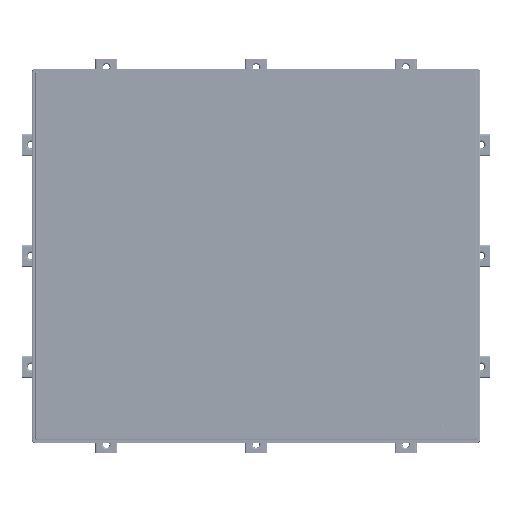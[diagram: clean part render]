
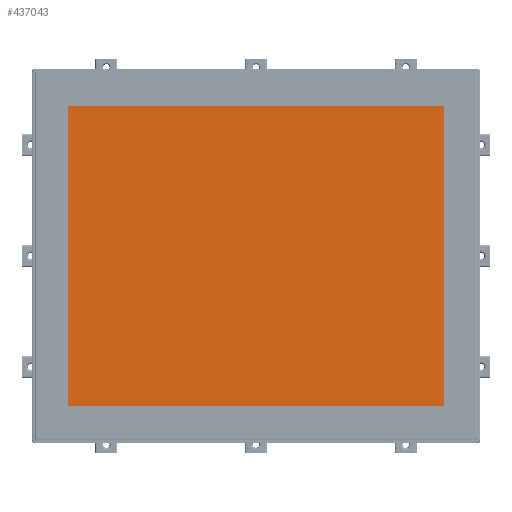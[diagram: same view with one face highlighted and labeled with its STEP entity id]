
A CAD part, top view. The second image highlights one B-rep face of the part: STEP entity #437043.
In plain terms, the highlighted planar face has unit normal (0, 0, 1).
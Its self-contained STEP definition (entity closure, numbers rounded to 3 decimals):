
#11564=DIRECTION('',(0.,1.,0.));
#11565=VECTOR('',#11564,271.);
#11566=CARTESIAN_POINT('',(169.25,-135.5,5.2));
#11567=LINE('',#11566,#11565);
#11568=DIRECTION('',(1.,0.,0.));
#11569=VECTOR('',#11568,46.75);
#11570=CARTESIAN_POINT('',(122.5,-135.5,5.2));
#11571=LINE('',#11570,#11569);
#11572=DIRECTION('',(0.,1.,0.));
#11573=VECTOR('',#11572,0.25);
#11574=CARTESIAN_POINT('',(122.5,-135.75,5.2));
#11575=LINE('',#11574,#11573);
#11576=DIRECTION('',(0.,1.,0.));
#11577=VECTOR('',#11576,0.25);
#11578=CARTESIAN_POINT('',(117.5,-135.75,5.2));
#11579=LINE('',#11578,#11577);
#11580=DIRECTION('',(1.,0.,0.));
#11581=VECTOR('',#11580,235.);
#11582=CARTESIAN_POINT('',(-117.5,-135.5,5.2));
#11583=LINE('',#11582,#11581);
#11584=DIRECTION('',(0.,1.,0.));
#11585=VECTOR('',#11584,0.25);
#11586=CARTESIAN_POINT('',(-117.5,-135.75,5.2));
#11587=LINE('',#11586,#11585);
#11588=DIRECTION('',(0.,1.,0.));
#11589=VECTOR('',#11588,0.25);
#11590=CARTESIAN_POINT('',(-122.5,-135.75,5.2));
#11591=LINE('',#11590,#11589);
#11592=DIRECTION('',(1.,0.,0.));
#11593=VECTOR('',#11592,46.75);
#11594=CARTESIAN_POINT('',(-169.25,-135.5,5.2));
#11595=LINE('',#11594,#11593);
#11596=DIRECTION('',(0.,-1.,0.));
#11597=VECTOR('',#11596,271.);
#11598=CARTESIAN_POINT('',(-169.25,135.5,5.2));
#11599=LINE('',#11598,#11597);
#11600=DIRECTION('',(-1.,0.,0.));
#11601=VECTOR('',#11600,338.5);
#11602=CARTESIAN_POINT('',(169.25,135.5,5.2));
#11603=LINE('',#11602,#11601);
#45675=DIRECTION('',(-1.,0.,0.));
#45676=VECTOR('',#45675,5.);
#45677=CARTESIAN_POINT('',(-117.5,-135.75,5.2));
#45678=LINE('',#45677,#45676);
#45683=DIRECTION('',(-1.,0.,0.));
#45684=VECTOR('',#45683,5.);
#45685=CARTESIAN_POINT('',(122.5,-135.75,5.2));
#45686=LINE('',#45685,#45684);
#403121=CARTESIAN_POINT('',(169.25,-135.5,5.2));
#403122=CARTESIAN_POINT('',(169.25,135.5,5.2));
#403123=VERTEX_POINT('',#403121);
#403124=VERTEX_POINT('',#403122);
#403125=CARTESIAN_POINT('',(-169.25,-135.5,5.2));
#403126=CARTESIAN_POINT('',(-122.5,-135.5,5.2));
#403127=VERTEX_POINT('',#403125);
#403128=VERTEX_POINT('',#403126);
#403129=CARTESIAN_POINT('',(-117.5,-135.5,5.2));
#403130=CARTESIAN_POINT('',(117.5,-135.5,5.2));
#403131=VERTEX_POINT('',#403129);
#403132=VERTEX_POINT('',#403130);
#403133=CARTESIAN_POINT('',(122.5,-135.5,5.2));
#403134=VERTEX_POINT('',#403133);
#403135=CARTESIAN_POINT('',(-169.25,135.5,5.2));
#403136=VERTEX_POINT('',#403135);
#403137=CARTESIAN_POINT('',(-122.5,-135.75,5.2));
#403138=VERTEX_POINT('',#403137);
#403139=CARTESIAN_POINT('',(-117.5,-135.75,5.2));
#403140=VERTEX_POINT('',#403139);
#403141=CARTESIAN_POINT('',(117.5,-135.75,5.2));
#403142=VERTEX_POINT('',#403141);
#403143=CARTESIAN_POINT('',(122.5,-135.75,5.2));
#403144=VERTEX_POINT('',#403143);
#437013=CARTESIAN_POINT('',(0.,0.,5.2));
#437014=DIRECTION('',(0.,0.,1.));
#437015=DIRECTION('',(1.,0.,0.));
#437016=AXIS2_PLACEMENT_3D('',#437013,#437014,#437015);
#437017=PLANE('',#437016);
#437018=ORIENTED_EDGE('',*,*,#436996,.F.);
#437020=ORIENTED_EDGE('',*,*,#437019,.F.);
#437022=ORIENTED_EDGE('',*,*,#437021,.F.);
#437024=ORIENTED_EDGE('',*,*,#437023,.T.);
#437026=ORIENTED_EDGE('',*,*,#437025,.T.);
#437028=ORIENTED_EDGE('',*,*,#437027,.F.);
#437030=ORIENTED_EDGE('',*,*,#437029,.F.);
#437032=ORIENTED_EDGE('',*,*,#437031,.T.);
#437034=ORIENTED_EDGE('',*,*,#437033,.T.);
#437036=ORIENTED_EDGE('',*,*,#437035,.F.);
#437038=ORIENTED_EDGE('',*,*,#437037,.F.);
#437040=ORIENTED_EDGE('',*,*,#437039,.F.);
#437041=EDGE_LOOP('',(#437018,#437020,#437022,#437024,#437026,#437028,#437030,
#437032,#437034,#437036,#437038,#437040));
#437042=FACE_OUTER_BOUND('',#437041,.F.);
#437043=ADVANCED_FACE('',(#437042),#437017,.T.);
#436996=EDGE_CURVE('',#403123,#403124,#11567,.T.);
#437019=EDGE_CURVE('',#403134,#403123,#11571,.T.);
#437021=EDGE_CURVE('',#403144,#403134,#11575,.T.);
#437023=EDGE_CURVE('',#403144,#403142,#45686,.T.);
#437025=EDGE_CURVE('',#403142,#403132,#11579,.T.);
#437027=EDGE_CURVE('',#403131,#403132,#11583,.T.);
#437029=EDGE_CURVE('',#403140,#403131,#11587,.T.);
#437031=EDGE_CURVE('',#403140,#403138,#45678,.T.);
#437033=EDGE_CURVE('',#403138,#403128,#11591,.T.);
#437035=EDGE_CURVE('',#403127,#403128,#11595,.T.);
#437037=EDGE_CURVE('',#403136,#403127,#11599,.T.);
#437039=EDGE_CURVE('',#403124,#403136,#11603,.T.);
